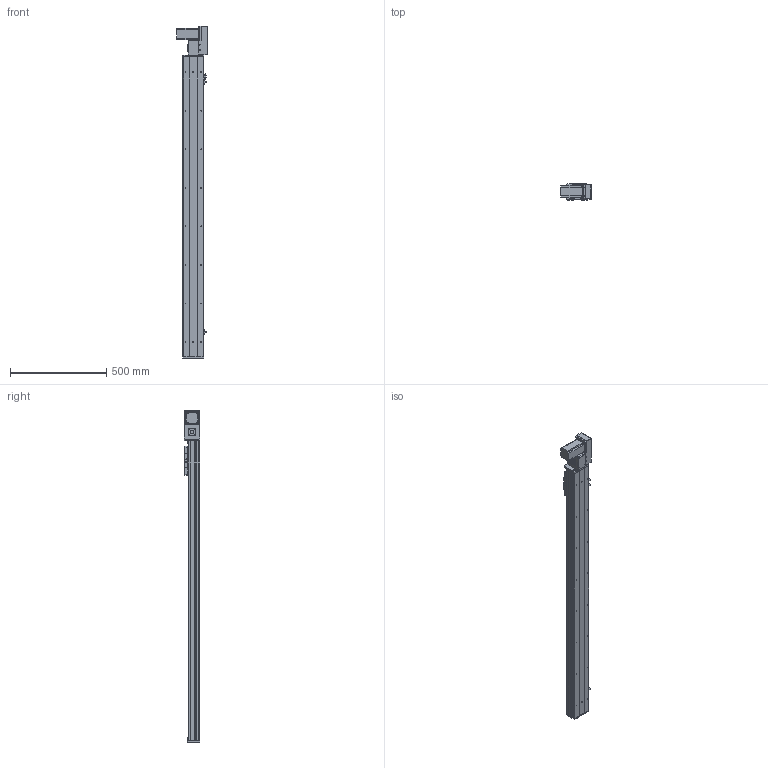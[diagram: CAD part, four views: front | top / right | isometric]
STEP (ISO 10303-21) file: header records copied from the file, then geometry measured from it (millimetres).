
FILE_DESCRIPTION (( 'STEP AP203' ), '1' );
FILE_NAME ('Y10CB-D90-S1300-BR-P400W.STEP', '2020-02-16T01:56:53', ( '微软用户' ), ( '微软中国' ), 'SwSTEP 2.0', 'SolidWorks 2017', '' );
FILE_SCHEMA (( 'CONFIG_CONTROL_DESIGN' ));
Length unit declared in the file: millimetre
Products named in the file (18): Y10B--々湍喘謫眊--666; Y俋欶BR----; 0CB-雄赽釱---; Y10CB-D90-S1300-BR-P400W; 10CB-詩湍-; 0Cb-俋欶---; Y10CB- 掛极耜裔啣-毀---; Y10B-々湍喘謫眊楊擘啣--; Y10C---詩湍揤啣; Y10B-耜蚾蟀諉啣----; 10CB9-掛极; 0B-萇儂楊擘啣; 10CB-耜裔; san松下电机400不带刹车----; Y135C-陔俋离換覜結え-; 0B-源倛裔啣; Y100-135俋离換覜ん--; 0B-埴倛裔啣
Assembly tree (21 placements, depth 2):
  Y10CB-D90-S1300-BR-P400W
    0CB-雄赽釱---
    0Cb-俋欶---
    Y10B-々湍喘謫眊楊擘啣--
    Y10B-耜蚾蟀諉啣----
    0B-萇儂楊擘啣
    san松下电机400不带刹车----
    0B-源倛裔啣
    0B-埴倛裔啣
    Y俋欶BR----
    10CB-詩湍-
    Y10CB- 掛极耜裔啣-毀---  x2
    Y10C---詩湍揤啣  x2
    10CB9-掛极
    10CB-耜裔
    Y135C-陔俋离換覜結え-
    Y100-135俋离換覜ん--  x3
    Y10B--々湍喘謫眊--666
Bounding box: 157.5 x 80.5 x 1722.5 mm (x, y, z)
Volume: 3660409.2 mm3; surface area: 1676663.2 mm2
Topology: 21 solids, 21 shells, 1002 faces, 2683 edges, 1754 vertices
Faces by surface type: cylinder 497, plane 481, cone 24
Entity records: 31404 total; most frequent: CARTESIAN_POINT 5617, DIRECTION 5062, ORIENTED_EDGE 4836, EDGE_CURVE 2418, AXIS2_PLACEMENT_3D 1809, VERTEX_POINT 1580, LINE 1444, VECTOR 1444
